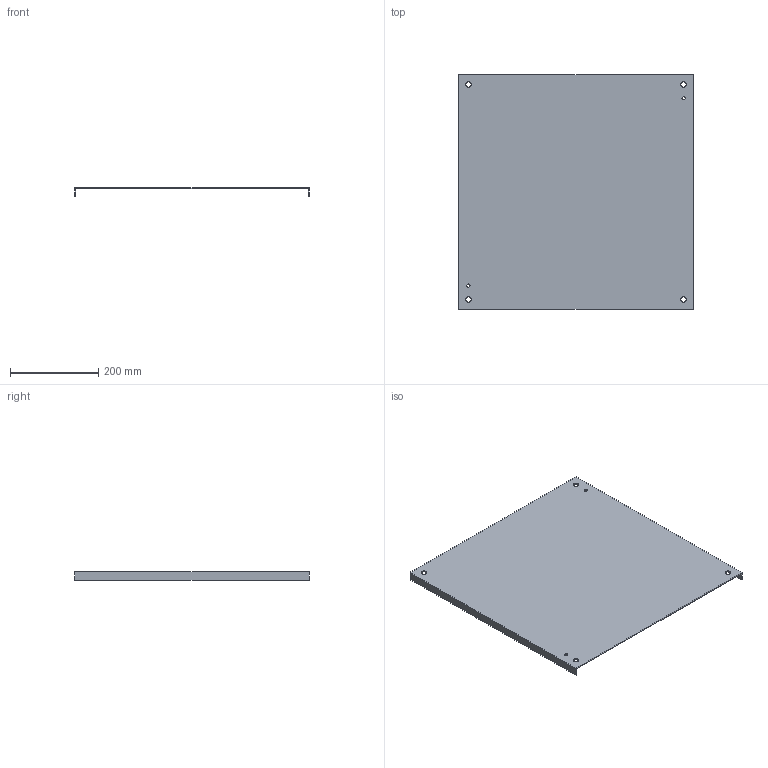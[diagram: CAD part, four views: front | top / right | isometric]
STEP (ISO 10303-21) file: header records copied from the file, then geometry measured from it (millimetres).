
FILE_DESCRIPTION((''),'1');
FILE_NAME('45','2001-04-18T',('jlue'),(''),'PRO/ENGINEER BY PARAMETRIC TECHNOLOGY CORPORATION, 9846','PRO/ENGINEER BY PARAMETRIC TECHNOLOGY CORPORATION, 9846','');
FILE_SCHEMA(('CONFIG_CONTROL_DESIGN'));
Length unit declared in the file: inch
Products named in the file (1): 45
Bounding box: 533.4 x 533.4 x 19.05 mm (x, y, z)
Surface area: 609164 mm2 (no closed solid volume)
Topology: 0 solids, 0 shells, 22 faces, 126 edges, 132 vertices
Faces by surface type: cylinder 12, plane 10
Entity records: 686 total; most frequent: DIRECTION 134, COMPOSITE_CURVE_SEGMENT 120, CARTESIAN_POINT 88, TRIMMED_CURVE 66, AXIS2_PLACEMENT_3D 46, VECTOR 42, LINE 42, CIRCLE 24
